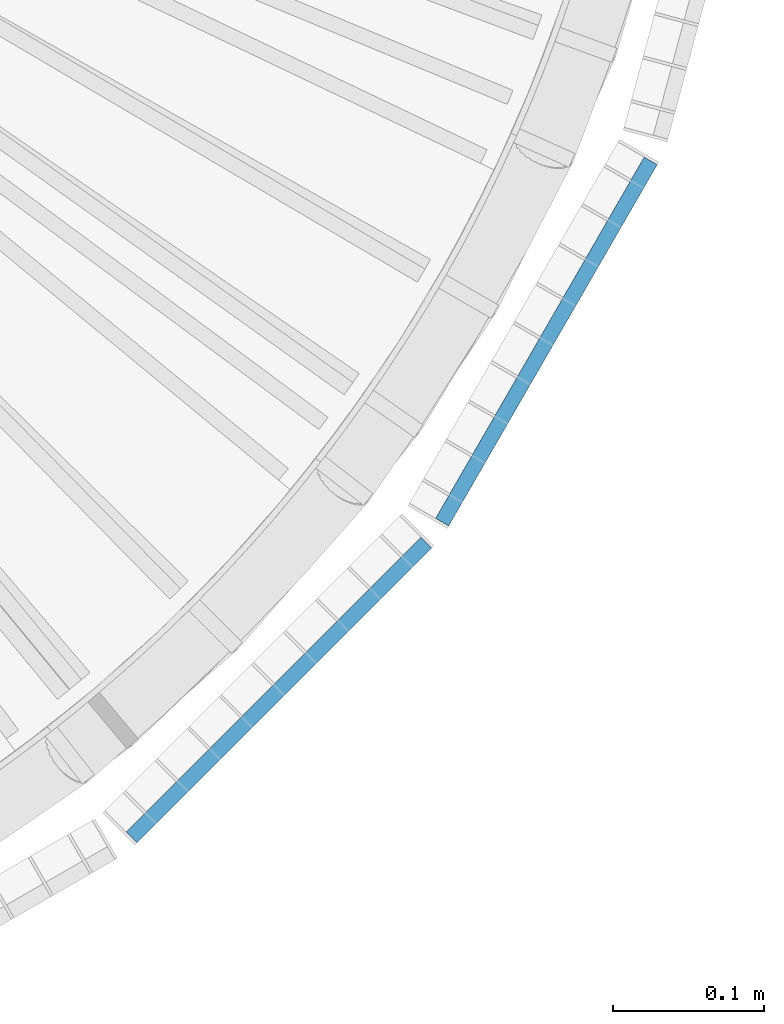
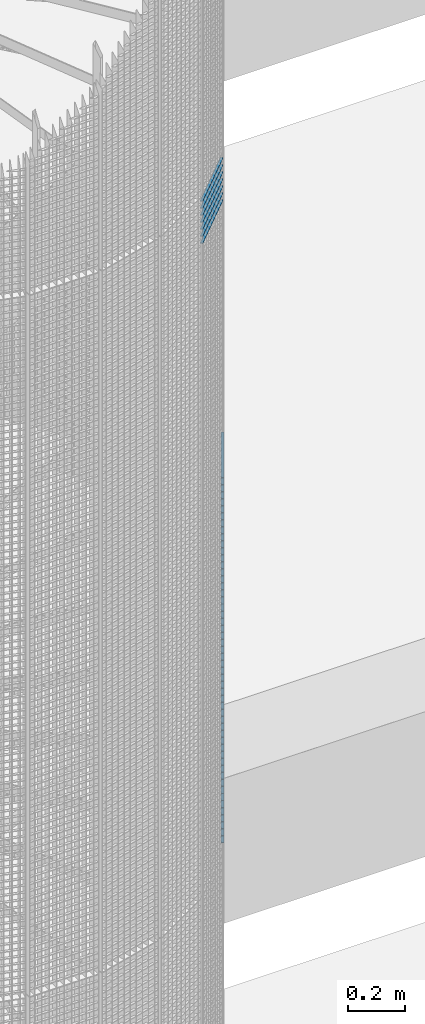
# One storey, part 229 of 1148: 60 beams, 2 elements without a shape of their own.
"""IFC2X3 building model written with IfcOpenShell, lengths in millimetres."""

from ifc_helpers import new_model, si_unit, frame, origin_with_axes, origin_2d_with_axis, place, context, subcontext, project, spatial, rectangle, extrude, material, type_object, element, aggregate, save


model = new_model("IFC2X3")

# Units and contexts
model_context = context("Model", 3, precision=1e-05, world=origin_with_axes())
body_context = subcontext(model_context, "Body", "Model", "MODEL_VIEW")
ifc_project = project(units=[si_unit("LENGTHUNIT", "METRE", prefix="MILLI"), si_unit("AREAUNIT", "SQUARE_METRE"), si_unit("VOLUMEUNIT", "CUBIC_METRE"), si_unit("MASSUNIT", "GRAM", prefix="KILO"), si_unit("TIMEUNIT", "SECOND"), si_unit("PLANEANGLEUNIT", "RADIAN"), si_unit("SOLIDANGLEUNIT", "STERADIAN"), si_unit("THERMODYNAMICTEMPERATUREUNIT", "DEGREE_CELSIUS"), si_unit("LUMINOUSINTENSITYUNIT", "LUMEN")], contexts=[model_context])

# Site, building, storey
site_placement = place(None, origin_with_axes())
site = spatial("IfcSite", under=ifc_project, at=site_placement, Name="Undefined", CompositionType="ELEMENT")
building_placement = place(site_placement, origin_with_axes())
building = spatial("IfcBuilding", under=site, at=building_placement, Name="Undefined", CompositionType="ELEMENT")
storey_placement = place(building_placement, origin_with_axes())
storey = spatial("IfcBuildingStorey", under=building, at=storey_placement, Name="Undefined", CompositionType="ELEMENT", Elevation=0.0)

# Assembly, beams
assembly_1_placement = place(storey_placement, origin_with_axes())
assembly_1 = element("IfcElementAssembly", 1, at=assembly_1_placement, inside=storey, Name="BORDURE", AssemblyPlace="NOTDEFINED", PredefinedType="NOTDEFINED")
ifc_material = material(Name="STEEL/S235JR")
beam_type = type_object("IfcBeamType", Name="PL2*10", PredefinedType="NOTDEFINED")
beam_1_placement = place(assembly_1_placement, frame((895.303964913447, -676.248044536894, 13590.0), z_axis=(0.866025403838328, -0.49999999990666, 0.0), x_axis=(0.49999999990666, 0.866025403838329, 0.0)))
beam_1 = element("IfcBeam", 2, at=beam_1_placement, type_object=beam_type, material=ifc_material, Name="ENTRETOISE", context=body_context, shape_type="SweptSolid", body=[
    extrude(rectangle(XDim=2.0, YDim=10.0, at=origin_2d_with_axis()), frame((275.999999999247, 9.09494701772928e-13, 1.53210777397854e-14), z_axis=(-1.0, 0.0, 0.0), x_axis=(0.0, -1.0, 0.0)), (0.0, 0.0, 1.0), 276.0),
])
beam_2_placement = place(assembly_1_placement, frame((895.303964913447, -676.248044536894, 13560.0), z_axis=(0.866025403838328, -0.49999999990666, 0.0), x_axis=(0.49999999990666, 0.866025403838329, 0.0)))
beam_2 = element("IfcBeam", 3, at=beam_2_placement, type_object=beam_type, material=ifc_material, Name="ENTRETOISE", context=body_context, shape_type="SweptSolid", body=[
    extrude(rectangle(XDim=2.0, YDim=10.0, at=origin_2d_with_axis()), frame((275.999999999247, 9.09494701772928e-13, 1.53210777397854e-14), z_axis=(-1.0, 0.0, 0.0), x_axis=(0.0, -1.0, 0.0)), (0.0, 0.0, 1.0), 276.0),
])
beam_3_placement = place(assembly_1_placement, frame((895.303964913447, -676.248044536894, 13530.0), z_axis=(0.866025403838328, -0.49999999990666, 0.0), x_axis=(0.49999999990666, 0.866025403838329, 0.0)))
beam_3 = element("IfcBeam", 4, at=beam_3_placement, type_object=beam_type, material=ifc_material, Name="ENTRETOISE", context=body_context, shape_type="SweptSolid", body=[
    extrude(rectangle(XDim=2.0, YDim=10.0, at=origin_2d_with_axis()), frame((275.999999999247, 9.09494701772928e-13, 1.53210777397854e-14), z_axis=(-1.0, 0.0, 0.0), x_axis=(0.0, -1.0, 0.0)), (0.0, 0.0, 1.0), 276.0),
])
beam_4_placement = place(assembly_1_placement, frame((895.303964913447, -676.248044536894, 13500.0), z_axis=(0.866025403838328, -0.49999999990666, 0.0), x_axis=(0.49999999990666, 0.866025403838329, 0.0)))
beam_4 = element("IfcBeam", 5, at=beam_4_placement, type_object=beam_type, material=ifc_material, Name="ENTRETOISE", context=body_context, shape_type="SweptSolid", body=[
    extrude(rectangle(XDim=2.0, YDim=10.0, at=origin_2d_with_axis()), frame((275.999999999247, 9.09494701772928e-13, 1.53210777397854e-14), z_axis=(-1.0, 0.0, 0.0), x_axis=(0.0, -1.0, 0.0)), (0.0, 0.0, 1.0), 276.0),
])
beam_5_placement = place(assembly_1_placement, frame((895.303964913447, -676.248044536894, 13470.0), z_axis=(0.866025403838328, -0.49999999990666, 0.0), x_axis=(0.49999999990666, 0.866025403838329, 0.0)))
beam_5 = element("IfcBeam", 6, at=beam_5_placement, type_object=beam_type, material=ifc_material, Name="ENTRETOISE", context=body_context, shape_type="SweptSolid", body=[
    extrude(rectangle(XDim=2.0, YDim=10.0, at=origin_2d_with_axis()), frame((275.999999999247, 9.09494701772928e-13, 1.53210777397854e-14), z_axis=(-1.0, 0.0, 0.0), x_axis=(0.0, -1.0, 0.0)), (0.0, 0.0, 1.0), 276.0),
])
beam_6_placement = place(assembly_1_placement, frame((895.303964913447, -676.248044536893, 13440.0), z_axis=(0.866025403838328, -0.49999999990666, 0.0), x_axis=(0.49999999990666, 0.866025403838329, 0.0)))
beam_6 = element("IfcBeam", 7, at=beam_6_placement, type_object=beam_type, material=ifc_material, Name="ENTRETOISE", context=body_context, shape_type="SweptSolid", body=[
    extrude(rectangle(XDim=2.0, YDim=10.0, at=origin_2d_with_axis()), frame((275.999999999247, 9.09494701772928e-13, 1.53210777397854e-14), z_axis=(-1.0, 0.0, 0.0), x_axis=(0.0, -1.0, 0.0)), (0.0, 0.0, 1.0), 276.0),
])
beam_7_placement = place(assembly_1_placement, frame((895.303964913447, -676.248044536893, 13410.0), z_axis=(0.866025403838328, -0.49999999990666, 0.0), x_axis=(0.49999999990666, 0.866025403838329, 0.0)))
beam_7 = element("IfcBeam", 8, at=beam_7_placement, type_object=beam_type, material=ifc_material, Name="ENTRETOISE", context=body_context, shape_type="SweptSolid", body=[
    extrude(rectangle(XDim=2.0, YDim=10.0, at=origin_2d_with_axis()), frame((275.999999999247, 9.09494701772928e-13, 1.53210777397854e-14), z_axis=(-1.0, 0.0, 0.0), x_axis=(0.0, -1.0, 0.0)), (0.0, 0.0, 1.0), 276.0),
])
beam_8_placement = place(assembly_1_placement, frame((895.303964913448, -676.248044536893, 13380.0), z_axis=(0.866025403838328, -0.49999999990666, 0.0), x_axis=(0.49999999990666, 0.866025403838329, 0.0)))
beam_8 = element("IfcBeam", 9, at=beam_8_placement, type_object=beam_type, material=ifc_material, Name="ENTRETOISE", context=body_context, shape_type="SweptSolid", body=[
    extrude(rectangle(XDim=2.0, YDim=10.0, at=origin_2d_with_axis()), frame((275.999999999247, 9.09494701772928e-13, 1.53210777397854e-14), z_axis=(-1.0, 0.0, 0.0), x_axis=(0.0, -1.0, 0.0)), (0.0, 0.0, 1.0), 276.0),
])
beam_9_placement = place(assembly_1_placement, frame((895.303964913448, -676.248044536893, 13350.0), z_axis=(0.866025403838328, -0.49999999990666, 0.0), x_axis=(0.49999999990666, 0.866025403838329, 0.0)))
beam_9 = element("IfcBeam", 10, at=beam_9_placement, type_object=beam_type, material=ifc_material, Name="ENTRETOISE", context=body_context, shape_type="SweptSolid", body=[
    extrude(rectangle(XDim=2.0, YDim=10.0, at=origin_2d_with_axis()), frame((275.999999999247, 9.09494701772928e-13, 1.53210777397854e-14), z_axis=(-1.0, 0.0, 0.0), x_axis=(0.0, -1.0, 0.0)), (0.0, 0.0, 1.0), 276.0),
])
beam_10_placement = place(assembly_1_placement, frame((895.303964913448, -676.248044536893, 13320.0), z_axis=(0.866025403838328, -0.49999999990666, 0.0), x_axis=(0.49999999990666, 0.866025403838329, 0.0)))
beam_10 = element("IfcBeam", 11, at=beam_10_placement, type_object=beam_type, material=ifc_material, Name="ENTRETOISE", context=body_context, shape_type="SweptSolid", body=[
    extrude(rectangle(XDim=2.0, YDim=10.0, at=origin_2d_with_axis()), frame((275.999999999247, 9.09494701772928e-13, 1.53210777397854e-14), z_axis=(-1.0, 0.0, 0.0), x_axis=(0.0, -1.0, 0.0)), (0.0, 0.0, 1.0), 276.0),
])
beam_11_placement = place(assembly_1_placement, frame((895.303964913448, -676.248044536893, 13290.0), z_axis=(0.866025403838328, -0.49999999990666, 0.0), x_axis=(0.49999999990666, 0.866025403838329, 0.0)))
beam_11 = element("IfcBeam", 12, at=beam_11_placement, type_object=beam_type, material=ifc_material, Name="ENTRETOISE", context=body_context, shape_type="SweptSolid", body=[
    extrude(rectangle(XDim=2.0, YDim=10.0, at=origin_2d_with_axis()), frame((275.999999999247, 9.09494701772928e-13, 1.53210777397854e-14), z_axis=(-1.0, 0.0, 0.0), x_axis=(0.0, -1.0, 0.0)), (0.0, 0.0, 1.0), 276.0),
])
beam_12_placement = place(assembly_1_placement, frame((895.303964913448, -676.248044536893, 13260.0), z_axis=(0.866025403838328, -0.49999999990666, 0.0), x_axis=(0.49999999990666, 0.866025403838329, 0.0)))
beam_12 = element("IfcBeam", 13, at=beam_12_placement, type_object=beam_type, material=ifc_material, Name="ENTRETOISE", context=body_context, shape_type="SweptSolid", body=[
    extrude(rectangle(XDim=2.0, YDim=10.0, at=origin_2d_with_axis()), frame((275.999999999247, 9.09494701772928e-13, 1.53210777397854e-14), z_axis=(-1.0, 0.0, 0.0), x_axis=(0.0, -1.0, 0.0)), (0.0, 0.0, 1.0), 276.0),
])
beam_13_placement = place(assembly_1_placement, frame((895.303964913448, -676.248044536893, 13230.0), z_axis=(0.866025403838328, -0.49999999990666, 0.0), x_axis=(0.49999999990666, 0.866025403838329, 0.0)))
beam_13 = element("IfcBeam", 14, at=beam_13_placement, type_object=beam_type, material=ifc_material, Name="ENTRETOISE", context=body_context, shape_type="SweptSolid", body=[
    extrude(rectangle(XDim=2.0, YDim=10.0, at=origin_2d_with_axis()), frame((275.999999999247, 9.09494701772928e-13, 1.53210777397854e-14), z_axis=(-1.0, 0.0, 0.0), x_axis=(0.0, -1.0, 0.0)), (0.0, 0.0, 1.0), 276.0),
])
beam_14_placement = place(assembly_1_placement, frame((895.303964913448, -676.248044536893, 13200.0), z_axis=(0.866025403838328, -0.49999999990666, 0.0), x_axis=(0.49999999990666, 0.866025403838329, 0.0)))
beam_14 = element("IfcBeam", 15, at=beam_14_placement, type_object=beam_type, material=ifc_material, Name="ENTRETOISE", context=body_context, shape_type="SweptSolid", body=[
    extrude(rectangle(XDim=2.0, YDim=10.0, at=origin_2d_with_axis()), frame((275.999999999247, 9.09494701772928e-13, 1.53210777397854e-14), z_axis=(-1.0, 0.0, 0.0), x_axis=(0.0, -1.0, 0.0)), (0.0, 0.0, 1.0), 276.0),
])
beam_15_placement = place(assembly_1_placement, frame((895.303964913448, -676.248044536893, 13170.0), z_axis=(0.866025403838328, -0.49999999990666, 0.0), x_axis=(0.49999999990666, 0.866025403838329, 0.0)))
beam_15 = element("IfcBeam", 16, at=beam_15_placement, type_object=beam_type, material=ifc_material, Name="ENTRETOISE", context=body_context, shape_type="SweptSolid", body=[
    extrude(rectangle(XDim=2.0, YDim=10.0, at=origin_2d_with_axis()), frame((275.999999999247, 9.09494701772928e-13, 1.53210777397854e-14), z_axis=(-1.0, 0.0, 0.0), x_axis=(0.0, -1.0, 0.0)), (0.0, 0.0, 1.0), 276.0),
])
beam_16_placement = place(assembly_1_placement, frame((895.303964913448, -676.248044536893, 13140.0), z_axis=(0.866025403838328, -0.49999999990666, 0.0), x_axis=(0.49999999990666, 0.866025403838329, 0.0)))
beam_16 = element("IfcBeam", 17, at=beam_16_placement, type_object=beam_type, material=ifc_material, Name="ENTRETOISE", context=body_context, shape_type="SweptSolid", body=[
    extrude(rectangle(XDim=2.0, YDim=10.0, at=origin_2d_with_axis()), frame((275.999999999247, 9.09494701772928e-13, 1.53210777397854e-14), z_axis=(-1.0, 0.0, 0.0), x_axis=(0.0, -1.0, 0.0)), (0.0, 0.0, 1.0), 276.0),
])
beam_17_placement = place(assembly_1_placement, frame((895.303964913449, -676.248044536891, 12720.0), z_axis=(0.866025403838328, -0.49999999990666, 0.0), x_axis=(0.49999999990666, 0.866025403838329, 0.0)))
beam_17 = element("IfcBeam", 18, at=beam_17_placement, type_object=beam_type, material=ifc_material, Name="ENTRETOISE", context=body_context, shape_type="SweptSolid", body=[
    extrude(rectangle(XDim=2.0, YDim=10.0, at=origin_2d_with_axis()), frame((275.999999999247, 9.09494701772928e-13, 1.53210777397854e-14), z_axis=(-1.0, 0.0, 0.0), x_axis=(0.0, -1.0, 0.0)), (0.0, 0.0, 1.0), 276.0),
])
beam_18_placement = place(assembly_1_placement, frame((895.303964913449, -676.248044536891, 12690.0), z_axis=(0.866025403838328, -0.49999999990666, 0.0), x_axis=(0.49999999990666, 0.866025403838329, 0.0)))
beam_18 = element("IfcBeam", 19, at=beam_18_placement, type_object=beam_type, material=ifc_material, Name="ENTRETOISE", context=body_context, shape_type="SweptSolid", body=[
    extrude(rectangle(XDim=2.0, YDim=10.0, at=origin_2d_with_axis()), frame((275.999999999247, 9.09494701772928e-13, 1.53210777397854e-14), z_axis=(-1.0, 0.0, 0.0), x_axis=(0.0, -1.0, 0.0)), (0.0, 0.0, 1.0), 276.0),
])
beam_19_placement = place(assembly_1_placement, frame((895.303964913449, -676.248044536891, 12750.0), z_axis=(0.866025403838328, -0.49999999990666, 0.0), x_axis=(0.49999999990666, 0.866025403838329, 0.0)))
beam_19 = element("IfcBeam", 20, at=beam_19_placement, type_object=beam_type, material=ifc_material, Name="ENTRETOISE", context=body_context, shape_type="SweptSolid", body=[
    extrude(rectangle(XDim=2.0, YDim=10.0, at=origin_2d_with_axis()), frame((275.999999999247, 9.09494701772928e-13, 1.53210777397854e-14), z_axis=(-1.0, 0.0, 0.0), x_axis=(0.0, -1.0, 0.0)), (0.0, 0.0, 1.0), 276.0),
])
beam_20_placement = place(assembly_1_placement, frame((895.303964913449, -676.248044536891, 12660.0), z_axis=(0.866025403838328, -0.49999999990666, 0.0), x_axis=(0.49999999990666, 0.866025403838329, 0.0)))
beam_20 = element("IfcBeam", 21, at=beam_20_placement, type_object=beam_type, material=ifc_material, Name="ENTRETOISE", context=body_context, shape_type="SweptSolid", body=[
    extrude(rectangle(XDim=2.0, YDim=10.0, at=origin_2d_with_axis()), frame((275.999999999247, 9.09494701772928e-13, 1.53210777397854e-14), z_axis=(-1.0, 0.0, 0.0), x_axis=(0.0, -1.0, 0.0)), (0.0, 0.0, 1.0), 276.0),
])
beam_21_placement = place(assembly_1_placement, frame((895.303964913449, -676.248044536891, 12630.0), z_axis=(0.866025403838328, -0.49999999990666, 0.0), x_axis=(0.49999999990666, 0.866025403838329, 0.0)))
beam_21 = element("IfcBeam", 22, at=beam_21_placement, type_object=beam_type, material=ifc_material, Name="ENTRETOISE", context=body_context, shape_type="SweptSolid", body=[
    extrude(rectangle(XDim=2.0, YDim=10.0, at=origin_2d_with_axis()), frame((275.999999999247, 9.09494701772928e-13, 1.53210777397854e-14), z_axis=(-1.0, 0.0, 0.0), x_axis=(0.0, -1.0, 0.0)), (0.0, 0.0, 1.0), 276.0),
])
beam_22_placement = place(assembly_1_placement, frame((895.303964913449, -676.248044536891, 12780.0), z_axis=(0.866025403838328, -0.49999999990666, 0.0), x_axis=(0.49999999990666, 0.866025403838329, 0.0)))
beam_22 = element("IfcBeam", 23, at=beam_22_placement, type_object=beam_type, material=ifc_material, Name="ENTRETOISE", context=body_context, shape_type="SweptSolid", body=[
    extrude(rectangle(XDim=2.0, YDim=10.0, at=origin_2d_with_axis()), frame((275.999999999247, 9.09494701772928e-13, 1.53210777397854e-14), z_axis=(-1.0, 0.0, 0.0), x_axis=(0.0, -1.0, 0.0)), (0.0, 0.0, 1.0), 276.0),
])
beam_23_placement = place(assembly_1_placement, frame((895.303964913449, -676.248044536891, 12600.0), z_axis=(0.866025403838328, -0.49999999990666, 0.0), x_axis=(0.49999999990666, 0.866025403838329, 0.0)))
beam_23 = element("IfcBeam", 24, at=beam_23_placement, type_object=beam_type, material=ifc_material, Name="ENTRETOISE", context=body_context, shape_type="SweptSolid", body=[
    extrude(rectangle(XDim=2.0, YDim=10.0, at=origin_2d_with_axis()), frame((275.999999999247, 9.09494701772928e-13, 1.53210777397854e-14), z_axis=(-1.0, 0.0, 0.0), x_axis=(0.0, -1.0, 0.0)), (0.0, 0.0, 1.0), 276.0),
])
beam_24_placement = place(assembly_1_placement, frame((895.303964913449, -676.248044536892, 12810.0), z_axis=(0.866025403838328, -0.49999999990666, 0.0), x_axis=(0.49999999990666, 0.866025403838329, 0.0)))
beam_24 = element("IfcBeam", 25, at=beam_24_placement, type_object=beam_type, material=ifc_material, Name="ENTRETOISE", context=body_context, shape_type="SweptSolid", body=[
    extrude(rectangle(XDim=2.0, YDim=10.0, at=origin_2d_with_axis()), frame((275.999999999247, 9.09494701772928e-13, 1.53210777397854e-14), z_axis=(-1.0, 0.0, 0.0), x_axis=(0.0, -1.0, 0.0)), (0.0, 0.0, 1.0), 276.0),
])
beam_25_placement = place(assembly_1_placement, frame((895.30396491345, -676.248044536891, 12570.0), z_axis=(0.866025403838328, -0.49999999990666, 0.0), x_axis=(0.49999999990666, 0.866025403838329, 0.0)))
beam_25 = element("IfcBeam", 26, at=beam_25_placement, type_object=beam_type, material=ifc_material, Name="ENTRETOISE", context=body_context, shape_type="SweptSolid", body=[
    extrude(rectangle(XDim=2.0, YDim=10.0, at=origin_2d_with_axis()), frame((275.999999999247, 9.09494701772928e-13, 1.53210777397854e-14), z_axis=(-1.0, 0.0, 0.0), x_axis=(0.0, -1.0, 0.0)), (0.0, 0.0, 1.0), 276.0),
])
beam_26_placement = place(assembly_1_placement, frame((895.30396491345, -676.248044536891, 12540.0), z_axis=(0.866025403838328, -0.49999999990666, 0.0), x_axis=(0.49999999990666, 0.866025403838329, 0.0)))
beam_26 = element("IfcBeam", 27, at=beam_26_placement, type_object=beam_type, material=ifc_material, Name="ENTRETOISE", context=body_context, shape_type="SweptSolid", body=[
    extrude(rectangle(XDim=2.0, YDim=10.0, at=origin_2d_with_axis()), frame((275.999999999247, 9.09494701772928e-13, 1.53210777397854e-14), z_axis=(-1.0, 0.0, 0.0), x_axis=(0.0, -1.0, 0.0)), (0.0, 0.0, 1.0), 276.0),
])
beam_27_placement = place(assembly_1_placement, frame((895.303964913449, -676.248044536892, 12840.0), z_axis=(0.866025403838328, -0.49999999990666, 0.0), x_axis=(0.49999999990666, 0.866025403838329, 0.0)))
beam_27 = element("IfcBeam", 28, at=beam_27_placement, type_object=beam_type, material=ifc_material, Name="ENTRETOISE", context=body_context, shape_type="SweptSolid", body=[
    extrude(rectangle(XDim=2.0, YDim=10.0, at=origin_2d_with_axis()), frame((275.999999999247, 9.09494701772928e-13, 1.53210777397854e-14), z_axis=(-1.0, 0.0, 0.0), x_axis=(0.0, -1.0, 0.0)), (0.0, 0.0, 1.0), 276.0),
])
beam_28_placement = place(assembly_1_placement, frame((895.303964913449, -676.248044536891, 12510.0), z_axis=(0.866025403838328, -0.49999999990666, 0.0), x_axis=(0.49999999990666, 0.866025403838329, 0.0)))
beam_28 = element("IfcBeam", 29, at=beam_28_placement, type_object=beam_type, material=ifc_material, Name="ENTRETOISE", context=body_context, shape_type="SweptSolid", body=[
    extrude(rectangle(XDim=2.0, YDim=10.0, at=origin_2d_with_axis()), frame((275.999999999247, 9.09494701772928e-13, 1.53210777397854e-14), z_axis=(-1.0, 0.0, 0.0), x_axis=(0.0, -1.0, 0.0)), (0.0, 0.0, 1.0), 276.0),
])
beam_29_placement = place(assembly_1_placement, frame((895.303964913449, -676.248044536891, 12480.0), z_axis=(0.866025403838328, -0.49999999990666, 0.0), x_axis=(0.49999999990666, 0.866025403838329, 0.0)))
beam_29 = element("IfcBeam", 30, at=beam_29_placement, type_object=beam_type, material=ifc_material, Name="ENTRETOISE", context=body_context, shape_type="SweptSolid", body=[
    extrude(rectangle(XDim=2.0, YDim=10.0, at=origin_2d_with_axis()), frame((275.999999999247, 9.09494701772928e-13, 1.53210777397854e-14), z_axis=(-1.0, 0.0, 0.0), x_axis=(0.0, -1.0, 0.0)), (0.0, 0.0, 1.0), 276.0),
])
beam_30_placement = place(assembly_1_placement, frame((895.303964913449, -676.248044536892, 12870.0), z_axis=(0.866025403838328, -0.49999999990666, 0.0), x_axis=(0.49999999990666, 0.866025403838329, 0.0)))
beam_30 = element("IfcBeam", 31, at=beam_30_placement, type_object=beam_type, material=ifc_material, Name="ENTRETOISE", context=body_context, shape_type="SweptSolid", body=[
    extrude(rectangle(XDim=2.0, YDim=10.0, at=origin_2d_with_axis()), frame((275.999999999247, 9.09494701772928e-13, 1.53210777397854e-14), z_axis=(-1.0, 0.0, 0.0), x_axis=(0.0, -1.0, 0.0)), (0.0, 0.0, 1.0), 276.0),
])
beam_31_placement = place(assembly_1_placement, frame((895.30396491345, -676.248044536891, 12450.0), z_axis=(0.866025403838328, -0.49999999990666, 0.0), x_axis=(0.49999999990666, 0.866025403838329, 0.0)))
beam_31 = element("IfcBeam", 32, at=beam_31_placement, type_object=beam_type, material=ifc_material, Name="ENTRETOISE", context=body_context, shape_type="SweptSolid", body=[
    extrude(rectangle(XDim=2.0, YDim=10.0, at=origin_2d_with_axis()), frame((275.999999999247, 9.09494701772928e-13, 1.53210777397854e-14), z_axis=(-1.0, 0.0, 0.0), x_axis=(0.0, -1.0, 0.0)), (0.0, 0.0, 1.0), 276.0),
])
beam_32_placement = place(assembly_1_placement, frame((895.30396491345, -676.24804453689, 12420.0), z_axis=(0.866025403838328, -0.49999999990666, 0.0), x_axis=(0.49999999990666, 0.866025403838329, 0.0)))
beam_32 = element("IfcBeam", 33, at=beam_32_placement, type_object=beam_type, material=ifc_material, Name="ENTRETOISE", context=body_context, shape_type="SweptSolid", body=[
    extrude(rectangle(XDim=2.0, YDim=10.0, at=origin_2d_with_axis()), frame((275.999999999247, 9.09494701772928e-13, 1.53210777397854e-14), z_axis=(-1.0, 0.0, 0.0), x_axis=(0.0, -1.0, 0.0)), (0.0, 0.0, 1.0), 276.0),
])
beam_33_placement = place(assembly_1_placement, frame((895.303964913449, -676.248044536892, 12900.0), z_axis=(0.866025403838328, -0.49999999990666, 0.0), x_axis=(0.49999999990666, 0.866025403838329, 0.0)))
beam_33 = element("IfcBeam", 34, at=beam_33_placement, type_object=beam_type, material=ifc_material, Name="ENTRETOISE", context=body_context, shape_type="SweptSolid", body=[
    extrude(rectangle(XDim=2.0, YDim=10.0, at=origin_2d_with_axis()), frame((275.999999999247, 9.09494701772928e-13, 1.53210777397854e-14), z_axis=(-1.0, 0.0, 0.0), x_axis=(0.0, -1.0, 0.0)), (0.0, 0.0, 1.0), 276.0),
])
beam_34_placement = place(assembly_1_placement, frame((895.30396491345, -676.24804453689, 12390.0), z_axis=(0.866025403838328, -0.49999999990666, 0.0), x_axis=(0.49999999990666, 0.866025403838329, 0.0)))
beam_34 = element("IfcBeam", 35, at=beam_34_placement, type_object=beam_type, material=ifc_material, Name="ENTRETOISE", context=body_context, shape_type="SweptSolid", body=[
    extrude(rectangle(XDim=2.0, YDim=10.0, at=origin_2d_with_axis()), frame((275.999999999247, 9.09494701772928e-13, 1.53210777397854e-14), z_axis=(-1.0, 0.0, 0.0), x_axis=(0.0, -1.0, 0.0)), (0.0, 0.0, 1.0), 276.0),
])
beam_35_placement = place(assembly_1_placement, frame((895.303964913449, -676.248044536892, 12930.0), z_axis=(0.866025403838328, -0.49999999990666, 0.0), x_axis=(0.49999999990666, 0.866025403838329, 0.0)))
beam_35 = element("IfcBeam", 36, at=beam_35_placement, type_object=beam_type, material=ifc_material, Name="ENTRETOISE", context=body_context, shape_type="SweptSolid", body=[
    extrude(rectangle(XDim=2.0, YDim=10.0, at=origin_2d_with_axis()), frame((275.999999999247, 9.09494701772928e-13, 1.53210777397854e-14), z_axis=(-1.0, 0.0, 0.0), x_axis=(0.0, -1.0, 0.0)), (0.0, 0.0, 1.0), 276.0),
])
beam_36_placement = place(assembly_1_placement, frame((895.30396491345, -676.24804453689, 12360.0), z_axis=(0.866025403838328, -0.49999999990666, 0.0), x_axis=(0.49999999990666, 0.866025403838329, 0.0)))
beam_36 = element("IfcBeam", 37, at=beam_36_placement, type_object=beam_type, material=ifc_material, Name="ENTRETOISE", context=body_context, shape_type="SweptSolid", body=[
    extrude(rectangle(XDim=2.0, YDim=10.0, at=origin_2d_with_axis()), frame((275.999999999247, 9.09494701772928e-13, 1.53210777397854e-14), z_axis=(-1.0, 0.0, 0.0), x_axis=(0.0, -1.0, 0.0)), (0.0, 0.0, 1.0), 276.0),
])
beam_37_placement = place(assembly_1_placement, frame((895.30396491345, -676.24804453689, 12330.0), z_axis=(0.866025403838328, -0.49999999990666, 0.0), x_axis=(0.49999999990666, 0.866025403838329, 0.0)))
beam_37 = element("IfcBeam", 38, at=beam_37_placement, type_object=beam_type, material=ifc_material, Name="ENTRETOISE", context=body_context, shape_type="SweptSolid", body=[
    extrude(rectangle(XDim=2.0, YDim=10.0, at=origin_2d_with_axis()), frame((275.999999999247, 9.09494701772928e-13, 1.53210777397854e-14), z_axis=(-1.0, 0.0, 0.0), x_axis=(0.0, -1.0, 0.0)), (0.0, 0.0, 1.0), 276.0),
])
beam_38_placement = place(assembly_1_placement, frame((895.303964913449, -676.248044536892, 12960.0), z_axis=(0.866025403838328, -0.49999999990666, 0.0), x_axis=(0.49999999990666, 0.866025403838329, 0.0)))
beam_38 = element("IfcBeam", 39, at=beam_38_placement, type_object=beam_type, material=ifc_material, Name="ENTRETOISE", context=body_context, shape_type="SweptSolid", body=[
    extrude(rectangle(XDim=2.0, YDim=10.0, at=origin_2d_with_axis()), frame((275.999999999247, 9.09494701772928e-13, 1.53210777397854e-14), z_axis=(-1.0, 0.0, 0.0), x_axis=(0.0, -1.0, 0.0)), (0.0, 0.0, 1.0), 276.0),
])
beam_39_placement = place(assembly_1_placement, frame((895.30396491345, -676.24804453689, 12300.0), z_axis=(0.866025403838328, -0.49999999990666, 0.0), x_axis=(0.49999999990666, 0.866025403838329, 0.0)))
beam_39 = element("IfcBeam", 40, at=beam_39_placement, type_object=beam_type, material=ifc_material, Name="ENTRETOISE", context=body_context, shape_type="SweptSolid", body=[
    extrude(rectangle(XDim=2.0, YDim=10.0, at=origin_2d_with_axis()), frame((275.999999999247, 9.09494701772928e-13, 1.53210777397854e-14), z_axis=(-1.0, 0.0, 0.0), x_axis=(0.0, -1.0, 0.0)), (0.0, 0.0, 1.0), 276.0),
])
beam_40_placement = place(assembly_1_placement, frame((895.30396491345, -676.24804453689, 12270.0), z_axis=(0.866025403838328, -0.49999999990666, 0.0), x_axis=(0.49999999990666, 0.866025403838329, 0.0)))
beam_40 = element("IfcBeam", 41, at=beam_40_placement, type_object=beam_type, material=ifc_material, Name="ENTRETOISE", context=body_context, shape_type="SweptSolid", body=[
    extrude(rectangle(XDim=2.0, YDim=10.0, at=origin_2d_with_axis()), frame((275.999999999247, 9.09494701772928e-13, 1.53210777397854e-14), z_axis=(-1.0, 0.0, 0.0), x_axis=(0.0, -1.0, 0.0)), (0.0, 0.0, 1.0), 276.0),
])
beam_41_placement = place(assembly_1_placement, frame((895.303964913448, -676.248044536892, 12990.0), z_axis=(0.866025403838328, -0.49999999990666, 0.0), x_axis=(0.49999999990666, 0.866025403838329, 0.0)))
beam_41 = element("IfcBeam", 42, at=beam_41_placement, type_object=beam_type, material=ifc_material, Name="ENTRETOISE", context=body_context, shape_type="SweptSolid", body=[
    extrude(rectangle(XDim=2.0, YDim=10.0, at=origin_2d_with_axis()), frame((275.999999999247, 9.09494701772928e-13, 1.53210777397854e-14), z_axis=(-1.0, 0.0, 0.0), x_axis=(0.0, -1.0, 0.0)), (0.0, 0.0, 1.0), 276.0),
])
beam_42_placement = place(assembly_1_placement, frame((895.30396491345, -676.24804453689, 12240.0), z_axis=(0.866025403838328, -0.49999999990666, 0.0), x_axis=(0.49999999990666, 0.866025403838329, 0.0)))
beam_42 = element("IfcBeam", 43, at=beam_42_placement, type_object=beam_type, material=ifc_material, Name="ENTRETOISE", context=body_context, shape_type="SweptSolid", body=[
    extrude(rectangle(XDim=2.0, YDim=10.0, at=origin_2d_with_axis()), frame((275.999999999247, 9.09494701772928e-13, 1.53210777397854e-14), z_axis=(-1.0, 0.0, 0.0), x_axis=(0.0, -1.0, 0.0)), (0.0, 0.0, 1.0), 276.0),
])
beam_43_placement = place(assembly_1_placement, frame((895.303964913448, -676.248044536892, 13020.0), z_axis=(0.866025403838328, -0.49999999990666, 0.0), x_axis=(0.49999999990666, 0.866025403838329, 0.0)))
beam_43 = element("IfcBeam", 44, at=beam_43_placement, type_object=beam_type, material=ifc_material, Name="ENTRETOISE", context=body_context, shape_type="SweptSolid", body=[
    extrude(rectangle(XDim=2.0, YDim=10.0, at=origin_2d_with_axis()), frame((275.999999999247, 9.09494701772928e-13, 1.53210777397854e-14), z_axis=(-1.0, 0.0, 0.0), x_axis=(0.0, -1.0, 0.0)), (0.0, 0.0, 1.0), 276.0),
])
beam_44_placement = place(assembly_1_placement, frame((895.30396491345, -676.24804453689, 12210.0), z_axis=(0.866025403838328, -0.49999999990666, 0.0), x_axis=(0.49999999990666, 0.866025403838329, 0.0)))
beam_44 = element("IfcBeam", 45, at=beam_44_placement, type_object=beam_type, material=ifc_material, Name="ENTRETOISE", context=body_context, shape_type="SweptSolid", body=[
    extrude(rectangle(XDim=2.0, YDim=10.0, at=origin_2d_with_axis()), frame((275.999999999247, 9.09494701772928e-13, 1.53210777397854e-14), z_axis=(-1.0, 0.0, 0.0), x_axis=(0.0, -1.0, 0.0)), (0.0, 0.0, 1.0), 276.0),
])
beam_45_placement = place(assembly_1_placement, frame((895.30396491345, -676.24804453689, 12180.0), z_axis=(0.866025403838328, -0.49999999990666, 0.0), x_axis=(0.49999999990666, 0.866025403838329, 0.0)))
beam_45 = element("IfcBeam", 46, at=beam_45_placement, type_object=beam_type, material=ifc_material, Name="ENTRETOISE", context=body_context, shape_type="SweptSolid", body=[
    extrude(rectangle(XDim=2.0, YDim=10.0, at=origin_2d_with_axis()), frame((275.999999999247, 9.09494701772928e-13, 1.53210777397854e-14), z_axis=(-1.0, 0.0, 0.0), x_axis=(0.0, -1.0, 0.0)), (0.0, 0.0, 1.0), 276.0),
])
beam_46_placement = place(assembly_1_placement, frame((895.303964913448, -676.248044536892, 13050.0), z_axis=(0.866025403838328, -0.49999999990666, 0.0), x_axis=(0.49999999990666, 0.866025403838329, 0.0)))
beam_46 = element("IfcBeam", 47, at=beam_46_placement, type_object=beam_type, material=ifc_material, Name="ENTRETOISE", context=body_context, shape_type="SweptSolid", body=[
    extrude(rectangle(XDim=2.0, YDim=10.0, at=origin_2d_with_axis()), frame((275.999999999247, 9.09494701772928e-13, 1.53210777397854e-14), z_axis=(-1.0, 0.0, 0.0), x_axis=(0.0, -1.0, 0.0)), (0.0, 0.0, 1.0), 276.0),
])
beam_47_placement = place(assembly_1_placement, frame((895.30396491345, -676.24804453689, 12150.0), z_axis=(0.866025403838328, -0.49999999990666, 0.0), x_axis=(0.49999999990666, 0.866025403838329, 0.0)))
beam_47 = element("IfcBeam", 48, at=beam_47_placement, type_object=beam_type, material=ifc_material, Name="ENTRETOISE", context=body_context, shape_type="SweptSolid", body=[
    extrude(rectangle(XDim=2.0, YDim=10.0, at=origin_2d_with_axis()), frame((275.999999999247, 9.09494701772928e-13, 1.53210777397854e-14), z_axis=(-1.0, 0.0, 0.0), x_axis=(0.0, -1.0, 0.0)), (0.0, 0.0, 1.0), 276.0),
])
beam_48_placement = place(assembly_1_placement, frame((895.30396491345, -676.24804453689, 12120.0), z_axis=(0.866025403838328, -0.49999999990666, 0.0), x_axis=(0.49999999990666, 0.866025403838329, 0.0)))
beam_48 = element("IfcBeam", 49, at=beam_48_placement, type_object=beam_type, material=ifc_material, Name="ENTRETOISE", context=body_context, shape_type="SweptSolid", body=[
    extrude(rectangle(XDim=2.0, YDim=10.0, at=origin_2d_with_axis()), frame((275.999999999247, 9.09494701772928e-13, 1.53210777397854e-14), z_axis=(-1.0, 0.0, 0.0), x_axis=(0.0, -1.0, 0.0)), (0.0, 0.0, 1.0), 276.0),
])
beam_49_placement = place(assembly_1_placement, frame((895.303964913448, -676.248044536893, 13080.0), z_axis=(0.866025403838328, -0.49999999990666, 0.0), x_axis=(0.49999999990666, 0.866025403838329, 0.0)))
beam_49 = element("IfcBeam", 50, at=beam_49_placement, type_object=beam_type, material=ifc_material, Name="ENTRETOISE", context=body_context, shape_type="SweptSolid", body=[
    extrude(rectangle(XDim=2.0, YDim=10.0, at=origin_2d_with_axis()), frame((275.999999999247, 9.09494701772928e-13, 1.53210777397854e-14), z_axis=(-1.0, 0.0, 0.0), x_axis=(0.0, -1.0, 0.0)), (0.0, 0.0, 1.0), 276.0),
])
beam_50_placement = place(assembly_1_placement, frame((895.30396491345, -676.248044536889, 12090.0), z_axis=(0.866025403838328, -0.49999999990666, 0.0), x_axis=(0.49999999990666, 0.866025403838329, 0.0)))
beam_50 = element("IfcBeam", 51, at=beam_50_placement, type_object=beam_type, material=ifc_material, Name="ENTRETOISE", context=body_context, shape_type="SweptSolid", body=[
    extrude(rectangle(XDim=2.0, YDim=10.0, at=origin_2d_with_axis()), frame((275.999999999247, 9.09494701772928e-13, 1.53210777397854e-14), z_axis=(-1.0, 0.0, 0.0), x_axis=(0.0, -1.0, 0.0)), (0.0, 0.0, 1.0), 276.0),
])
beam_51_placement = place(assembly_1_placement, frame((895.30396491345, -676.248044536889, 12060.0), z_axis=(0.866025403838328, -0.49999999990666, 0.0), x_axis=(0.49999999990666, 0.866025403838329, 0.0)))
beam_51 = element("IfcBeam", 52, at=beam_51_placement, type_object=beam_type, material=ifc_material, Name="ENTRETOISE", context=body_context, shape_type="SweptSolid", body=[
    extrude(rectangle(XDim=2.0, YDim=10.0, at=origin_2d_with_axis()), frame((275.999999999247, 9.09494701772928e-13, 1.53210777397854e-14), z_axis=(-1.0, 0.0, 0.0), x_axis=(0.0, -1.0, 0.0)), (0.0, 0.0, 1.0), 276.0),
])
beam_52_placement = place(assembly_1_placement, frame((895.303964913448, -676.248044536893, 13110.0), z_axis=(0.866025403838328, -0.49999999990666, 0.0), x_axis=(0.49999999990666, 0.866025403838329, 0.0)))
beam_52 = element("IfcBeam", 53, at=beam_52_placement, type_object=beam_type, material=ifc_material, Name="ENTRETOISE", context=body_context, shape_type="SweptSolid", body=[
    extrude(rectangle(XDim=2.0, YDim=10.0, at=origin_2d_with_axis()), frame((275.999999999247, 9.09494701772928e-13, 1.53210777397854e-14), z_axis=(-1.0, 0.0, 0.0), x_axis=(0.0, -1.0, 0.0)), (0.0, 0.0, 1.0), 276.0),
])
beam_53_placement = place(assembly_1_placement, frame((895.30396491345, -676.248044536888, 12030.0), z_axis=(0.866025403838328, -0.49999999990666, 0.0), x_axis=(0.49999999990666, 0.866025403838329, 0.0)))
beam_53 = element("IfcBeam", 54, at=beam_53_placement, type_object=beam_type, material=ifc_material, Name="ENTRETOISE", context=body_context, shape_type="SweptSolid", body=[
    extrude(rectangle(XDim=2.0, YDim=10.0, at=origin_2d_with_axis()), frame((275.999999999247, 9.09494701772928e-13, 1.53210777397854e-14), z_axis=(-1.0, 0.0, 0.0), x_axis=(0.0, -1.0, 0.0)), (0.0, 0.0, 1.0), 276.0),
])
aggregate(assembly_1, [beam_1, beam_2, beam_3, beam_4, beam_5, beam_6, beam_7, beam_8, beam_9, beam_10, beam_11, beam_12, beam_13, beam_14, beam_15, beam_16, beam_17, beam_18, beam_19, beam_20, beam_21, beam_22, beam_23, beam_24, beam_25, beam_26, beam_27, beam_28, beam_29, beam_30, beam_31, beam_32, beam_33, beam_34, beam_35, beam_36, beam_37, beam_38, beam_39, beam_40, beam_41, beam_42, beam_43, beam_44, beam_45, beam_46, beam_47, beam_48, beam_49, beam_50, beam_51, beam_52, beam_53])

assembly_2_placement = place(storey_placement, origin_with_axes())
assembly_2 = element("IfcElementAssembly", 55, at=assembly_2_placement, inside=storey, Name="BORDURE", AssemblyPlace="NOTDEFINED", PredefinedType="NOTDEFINED")
beam_54_placement = place(assembly_2_placement, frame((689.771348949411, -884.927168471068, 14970.0), z_axis=(0.707106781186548, -0.707106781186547, 0.0), x_axis=(0.707106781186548, 0.707106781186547, 0.0)))
beam_54 = element("IfcBeam", 56, at=beam_54_placement, type_object=beam_type, material=ifc_material, Name="ENTRETOISE", context=body_context, shape_type="SweptSolid", body=[
    extrude(rectangle(XDim=2.0, YDim=10.0, at=origin_2d_with_axis()), frame((275.999999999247, 9.09494701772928e-13, 1.53210777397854e-14), z_axis=(-1.0, 0.0, 0.0), x_axis=(0.0, -1.0, 0.0)), (0.0, 0.0, 1.0), 276.0),
])
beam_55_placement = place(assembly_2_placement, frame((689.771348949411, -884.927168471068, 14940.0), z_axis=(0.707106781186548, -0.707106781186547, 0.0), x_axis=(0.707106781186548, 0.707106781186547, 0.0)))
beam_55 = element("IfcBeam", 57, at=beam_55_placement, type_object=beam_type, material=ifc_material, Name="ENTRETOISE", context=body_context, shape_type="SweptSolid", body=[
    extrude(rectangle(XDim=2.0, YDim=10.0, at=origin_2d_with_axis()), frame((275.999999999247, 9.09494701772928e-13, 1.53210777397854e-14), z_axis=(-1.0, 0.0, 0.0), x_axis=(0.0, -1.0, 0.0)), (0.0, 0.0, 1.0), 276.0),
])
beam_56_placement = place(assembly_2_placement, frame((689.771348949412, -884.927168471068, 14910.0), z_axis=(0.707106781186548, -0.707106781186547, 0.0), x_axis=(0.707106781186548, 0.707106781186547, 0.0)))
beam_56 = element("IfcBeam", 58, at=beam_56_placement, type_object=beam_type, material=ifc_material, Name="ENTRETOISE", context=body_context, shape_type="SweptSolid", body=[
    extrude(rectangle(XDim=2.0, YDim=10.0, at=origin_2d_with_axis()), frame((275.999999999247, 9.09494701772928e-13, 1.53210777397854e-14), z_axis=(-1.0, 0.0, 0.0), x_axis=(0.0, -1.0, 0.0)), (0.0, 0.0, 1.0), 276.0),
])
beam_57_placement = place(assembly_2_placement, frame((689.771348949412, -884.927168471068, 14880.0), z_axis=(0.707106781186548, -0.707106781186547, 0.0), x_axis=(0.707106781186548, 0.707106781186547, 0.0)))
beam_57 = element("IfcBeam", 59, at=beam_57_placement, type_object=beam_type, material=ifc_material, Name="ENTRETOISE", context=body_context, shape_type="SweptSolid", body=[
    extrude(rectangle(XDim=2.0, YDim=10.0, at=origin_2d_with_axis()), frame((275.999999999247, 9.09494701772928e-13, 1.53210777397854e-14), z_axis=(-1.0, 0.0, 0.0), x_axis=(0.0, -1.0, 0.0)), (0.0, 0.0, 1.0), 276.0),
])
beam_58_placement = place(assembly_2_placement, frame((689.771348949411, -884.927168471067, 14850.0), z_axis=(0.707106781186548, -0.707106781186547, 0.0), x_axis=(0.707106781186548, 0.707106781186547, 0.0)))
beam_58 = element("IfcBeam", 60, at=beam_58_placement, type_object=beam_type, material=ifc_material, Name="ENTRETOISE", context=body_context, shape_type="SweptSolid", body=[
    extrude(rectangle(XDim=2.0, YDim=10.0, at=origin_2d_with_axis()), frame((275.999999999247, 9.09494701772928e-13, 1.53210777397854e-14), z_axis=(-1.0, 0.0, 0.0), x_axis=(0.0, -1.0, 0.0)), (0.0, 0.0, 1.0), 276.0),
])
beam_59_placement = place(assembly_2_placement, frame((689.771348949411, -884.927168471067, 14820.0), z_axis=(0.707106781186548, -0.707106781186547, 0.0), x_axis=(0.707106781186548, 0.707106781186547, 0.0)))
beam_59 = element("IfcBeam", 61, at=beam_59_placement, type_object=beam_type, material=ifc_material, Name="ENTRETOISE", context=body_context, shape_type="SweptSolid", body=[
    extrude(rectangle(XDim=2.0, YDim=10.0, at=origin_2d_with_axis()), frame((275.999999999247, 9.09494701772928e-13, 1.53210777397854e-14), z_axis=(-1.0, 0.0, 0.0), x_axis=(0.0, -1.0, 0.0)), (0.0, 0.0, 1.0), 276.0),
])
beam_60_placement = place(assembly_2_placement, frame((689.771348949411, -884.927168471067, 14790.0), z_axis=(0.707106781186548, -0.707106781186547, 0.0), x_axis=(0.707106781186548, 0.707106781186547, 0.0)))
beam_60 = element("IfcBeam", 62, at=beam_60_placement, type_object=beam_type, material=ifc_material, Name="ENTRETOISE", context=body_context, shape_type="SweptSolid", body=[
    extrude(rectangle(XDim=2.0, YDim=10.0, at=origin_2d_with_axis()), frame((275.999999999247, 9.09494701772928e-13, 1.53210777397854e-14), z_axis=(-1.0, 0.0, 0.0), x_axis=(0.0, -1.0, 0.0)), (0.0, 0.0, 1.0), 276.0),
])
aggregate(assembly_2, [beam_54, beam_55, beam_56, beam_57, beam_58, beam_59, beam_60])

save(model, "model.ifc")
